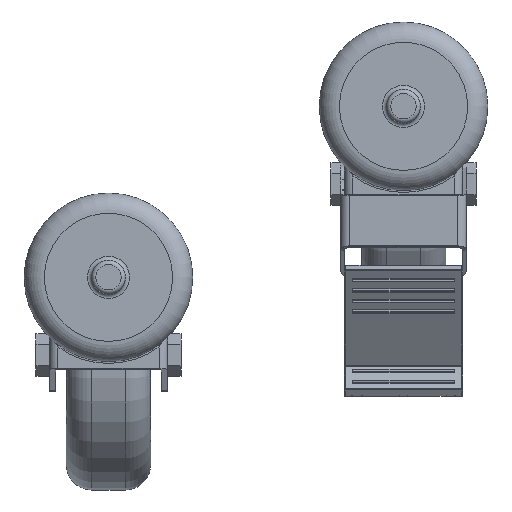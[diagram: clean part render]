
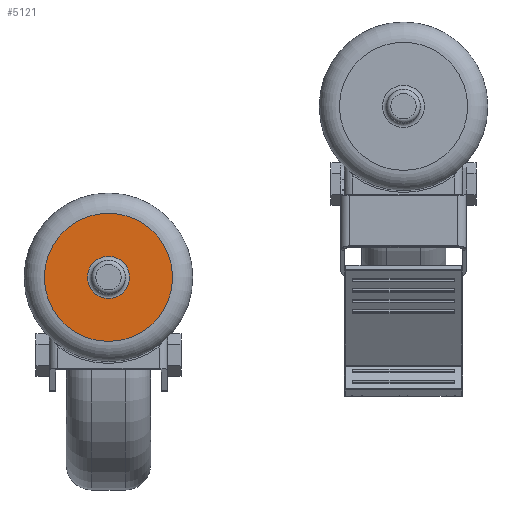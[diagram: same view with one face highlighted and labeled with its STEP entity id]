
A CAD part, top view. The second image highlights one B-rep face of the part: STEP entity #5121.
In plain terms, the highlighted planar face has unit normal (0, 0, 1).
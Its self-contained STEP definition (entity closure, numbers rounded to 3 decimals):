
#437=CIRCLE('',#5502,7.938);
#438=CIRCLE('',#5503,24.13);
#746=ORIENTED_EDGE('',*,*,#2267,.T.);
#747=ORIENTED_EDGE('',*,*,#2268,.T.);
#2267=EDGE_CURVE('',#3025,#3025,#437,.F.);
#2268=EDGE_CURVE('',#3026,#3026,#438,.T.);
#3025=VERTEX_POINT('',#7988);
#3026=VERTEX_POINT('',#7990);
#4242=EDGE_LOOP('',(#746));
#4243=EDGE_LOOP('',(#747));
#4626=FACE_BOUND('',#4242,.T.);
#4627=FACE_BOUND('',#4243,.T.);
#5000=PLANE('',#5501);
#5121=ADVANCED_FACE('',(#4626,#4627),#5000,.T.);
#5501=AXIS2_PLACEMENT_3D('',#7986,#6234,#6235);
#5502=AXIS2_PLACEMENT_3D('',#7987,#6236,#6237);
#5503=AXIS2_PLACEMENT_3D('',#7989,#6238,#6239);
#6234=DIRECTION('',(0.,0.,1.));
#6235=DIRECTION('',(1.,0.,0.));
#6236=DIRECTION('',(0.,0.,1.));
#6237=DIRECTION('',(1.,0.,0.));
#6238=DIRECTION('',(0.,0.,1.));
#6239=DIRECTION('',(1.,0.,0.));
#7986=CARTESIAN_POINT('',(6.35,0.,8.89));
#7987=CARTESIAN_POINT('',(0.,0.,8.89));
#7988=CARTESIAN_POINT('',(7.938,0.,8.89));
#7989=CARTESIAN_POINT('',(0.,0.,8.89));
#7990=CARTESIAN_POINT('',(24.13,0.,8.89));
